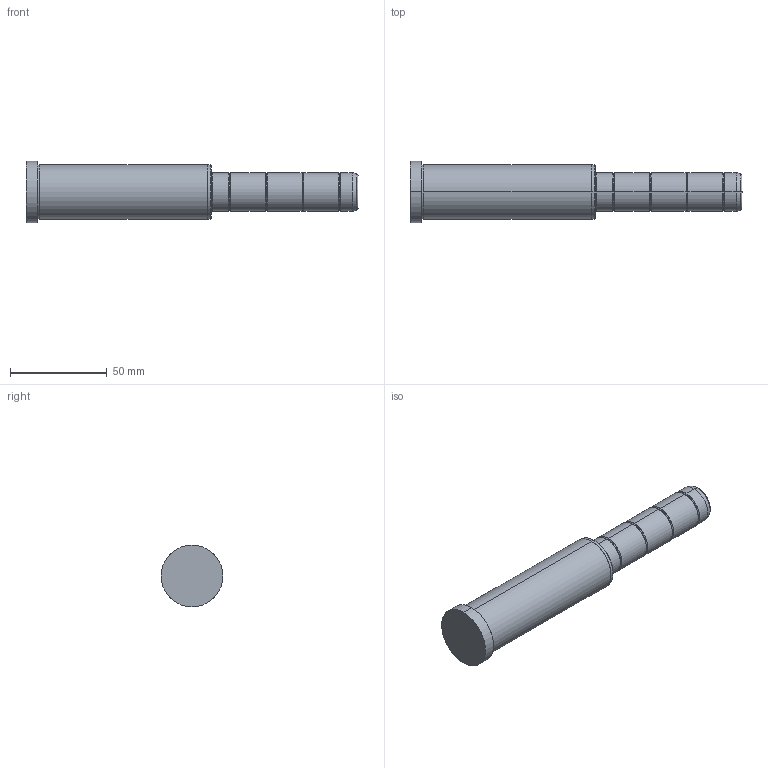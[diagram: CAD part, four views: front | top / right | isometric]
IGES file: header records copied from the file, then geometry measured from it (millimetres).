
Start section: SolidWorks IGES file using analytic representation for surfaces
Global section: file name: C:\Documents and Settings\kalite-mail\Desktop\IGS\D02\20\D02 - 20x96x76.IGS; native system: SolidWorks 2008; preprocessor: SolidWorks 2008; author: kalite-mail; date: 080616.165656; units: millimetre
Bounding box: 172 x 32 x 32 mm (x, y, z)
Surface area: 14939.4 mm2 (no closed solid volume)
Topology: 0 solids, 0 shells, 48 faces, 712 edges, 712 vertices
Faces by surface type: bspline 26, revolution 22
